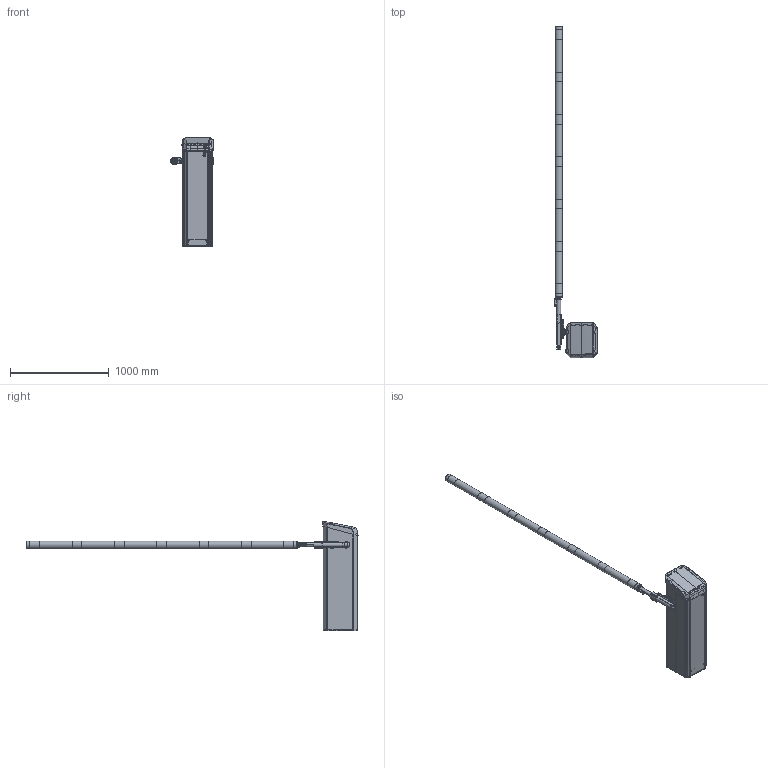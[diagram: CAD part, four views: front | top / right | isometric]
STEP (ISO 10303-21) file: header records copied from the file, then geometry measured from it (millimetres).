
FILE_DESCRIPTION(/* description */ ('Unknown'),/* implementation_level */ '2;1');
FILE_NAME(/* name */ '55860007_01',/* time_stamp */ '2023-03-07T06:50:17+01:00',/* author */ ('Unknown'),/* organization */ ('Unknown'),/* preprocessor_version */ 'ST-DEVELOPER v18.102',/* originating_system */ 'Solid Edge',/* authorisation */ 'Unknown');
FILE_SCHEMA (('AUTOMOTIVE_DESIGN {1 0 10303 214 3 1 1}'));
Products named in the file (74): 55860007; TOLL-R-HUELLE; 20435761; 20186029; 10335028; 20695070; 20375010; 10085135; 20695057; 34745013; 20345347; 20345348; 10085135-Dichtung; 10435374; 20435667; 34685017; 34685017a; 34685017c; 34685017b; 34685017d; 20585064; 20415077; 20415077a; 20415077b; 20775050; 20775051; 21085025; 20165183; 10145080; 10145080a; 20040010; 21085024; 30545011; 20195100; 10405014; 20405757; 31475004_10405014; 32240037-10405014; 31475004_10405014c; 31475004_10405014b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
Assembly tree (111 placements, depth 5):
  55860007
    TOLL-R-HUELLE
      20435761
      20186029
      10335028  x2
        20695070
        20375010
      10085135
        20695057
        34745013  x5
        20345347
        20345348
        10085135-Dichtung
      10435374
        20435667
        34685017
          34685017a
          34685017c
          34685017b
          34685017d
        20585064
      20415077
        20415077a
        20415077b
      20775050  x2
      20775051  x2
      21085025
      20165183
      10145080
        10145080a
        20040010
      21085024
      30545011
      20195100  x2
      10405014
        20405757
        31475004_10405014  x2
        32240037-10405014  x2
        31475004_10405014c
        31475004_10405014b
      20695069  x4
    10315259
      20045017
      20405170
      20525345
        20525345a
        20525345_416_360_Kehlnaht 2_oa_0
        20525345_416_360_Kehlnaht 2_oa_1
        20525345_416_360_Kehlnaht 2
        20525345_416_360_Kehlnaht 2_oa_2
        20525345c  x2
        20525345b
      34905001  x6
      31415004  x2
      33075008  x2
      34840070  x2
      34980017  x4
      34905005  x2
      20175023
      20400155  x2
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Bounding box: 432.39 x 3370.4 x 1115.92 mm (x, y, z)
Volume: 17955921.3 mm3; surface area: 8377680.5 mm2
Topology: 99 solids, 99 shells, 4972 faces, 12755 edges, 8049 vertices
Faces by surface type: plane 2574, cylinder 1519, cone 301, bspline 277, torus 274, sphere 27
Full cylindrical faces by diameter (mm): 1.5 x3, 1.8 x2, 3.14 x6, 3.2 x1, 3.3 x6, 3.5 x1, 3.65 x4, 3.9 x6, 4 x12, 4.134 x2, 4.5 x6, 4.773 x7, 4.9 x3, 4.917 x2, 5 x2, 5.5 x4, 6 x14, 6.242 x2, 6.4 x4, 6.466 x2, 6.5 x13, 6.8 x2, 7.1 x2, 8 x10, 8.16 x4, 8.4 x2, 8.5 x4, 8.66 x2, 9 x4, 10 x16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
Entity records: 117691 total; most frequent: CARTESIAN_POINT 27306, DIRECTION 17961, ORIENTED_EDGE 17728, EDGE_CURVE 8864, AXIS2_PLACEMENT_3D 6239, VERTEX_POINT 5759, LINE 5483, VECTOR 5483
